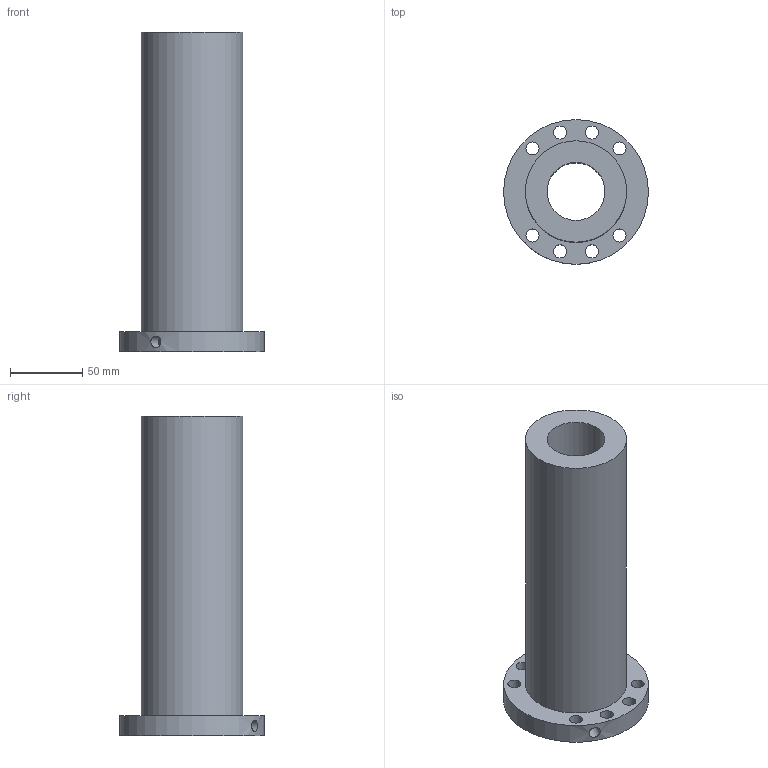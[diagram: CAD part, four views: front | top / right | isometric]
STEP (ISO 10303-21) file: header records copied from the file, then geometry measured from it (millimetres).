
FILE_DESCRIPTION(/* description */ (''),/* implementation_level */ '2;1');
FILE_NAME(/* name */ '40-16K5_635',/* time_stamp */ '2007-10-15T12:53:57+08:00',/* author */ (''),/* organization */ (''),/* preprocessor_version */ 'ST-DEVELOPER v11',/* originating_system */ 'UGS - NX 5.0',/* authorisation */ '');
FILE_SCHEMA (('CONFIG_CONTROL_DESIGN'));
Length unit declared in the file: millimetre
Products named in the file (1): 40-16K5_635
Bounding box: 100 x 100 x 221 mm (x, y, z)
Volume: 620675.9 mm3; surface area: 93606.9 mm2
Topology: 1 solids, 1 shells, 17 faces, 40 edges, 27 vertices
Faces by surface type: cylinder 13, plane 4
Full cylindrical faces by diameter (mm): 6 x1, 8 x1, 9 x8, 40 x1, 70 x1, 100 x1
Entity records: 668 total; most frequent: CARTESIAN_POINT 184, DIRECTION 84, FACE_BOUND 52, EDGE_LOOP 52, ORIENTED_EDGE 52, AXIS2_PLACEMENT_3D 42, VERTEX_POINT 26, EDGE_CURVE 26
